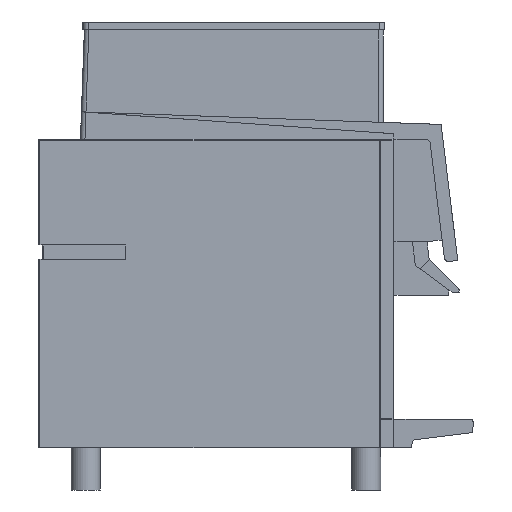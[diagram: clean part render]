
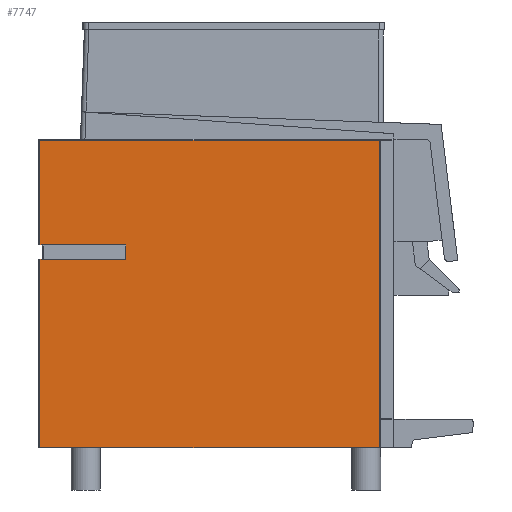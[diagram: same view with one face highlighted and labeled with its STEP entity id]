
A CAD part, left-side view. The second image highlights one B-rep face of the part: STEP entity #7747.
In plain terms, the highlighted planar face has unit normal (-1, 0, 0).
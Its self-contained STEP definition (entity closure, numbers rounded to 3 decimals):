
#790=ORIENTED_EDGE('',*,*,#2034,.F.);
#791=ORIENTED_EDGE('',*,*,#2358,.T.);
#792=ORIENTED_EDGE('',*,*,#2359,.T.);
#793=ORIENTED_EDGE('',*,*,#2360,.T.);
#794=ORIENTED_EDGE('',*,*,#2361,.F.);
#795=ORIENTED_EDGE('',*,*,#2362,.F.);
#796=ORIENTED_EDGE('',*,*,#2363,.F.);
#797=ORIENTED_EDGE('',*,*,#2364,.T.);
#798=ORIENTED_EDGE('',*,*,#2365,.T.);
#799=ORIENTED_EDGE('',*,*,#2366,.T.);
#2034=EDGE_CURVE('',#2856,#2857,#3379,.T.);
#2358=EDGE_CURVE('',#2856,#3103,#3629,.T.);
#2359=EDGE_CURVE('',#3103,#3104,#3630,.F.);
#2360=EDGE_CURVE('',#3104,#3105,#3631,.F.);
#2361=EDGE_CURVE('',#3106,#3105,#3632,.T.);
#2362=EDGE_CURVE('',#3107,#3106,#3633,.T.);
#2363=EDGE_CURVE('',#3108,#3107,#3634,.T.);
#2364=EDGE_CURVE('',#3108,#3109,#3635,.T.);
#2365=EDGE_CURVE('',#3109,#3110,#3636,.T.);
#2366=EDGE_CURVE('',#3110,#2857,#3637,.F.);
#2856=VERTEX_POINT('',#10261);
#2857=VERTEX_POINT('',#10263);
#3103=VERTEX_POINT('',#10894);
#3104=VERTEX_POINT('',#10896);
#3105=VERTEX_POINT('',#10898);
#3106=VERTEX_POINT('',#10900);
#3107=VERTEX_POINT('',#10902);
#3108=VERTEX_POINT('',#10904);
#3109=VERTEX_POINT('',#10906);
#3110=VERTEX_POINT('',#10908);
#3379=LINE('',#10262,#4033);
#3629=LINE('',#10893,#4283);
#3630=LINE('',#10895,#4284);
#3631=LINE('',#10897,#4285);
#3632=LINE('',#10899,#4286);
#3633=LINE('',#10901,#4287);
#3634=LINE('',#10903,#4288);
#3635=LINE('',#10905,#4289);
#3636=LINE('',#10907,#4290);
#3637=LINE('',#10909,#4291);
#4033=VECTOR('',#8588,1000.);
#4283=VECTOR('',#9108,1000.);
#4284=VECTOR('',#9109,1000.);
#4285=VECTOR('',#9110,1000.);
#4286=VECTOR('',#9111,1000.);
#4287=VECTOR('',#9112,1000.);
#4288=VECTOR('',#9113,1000.);
#4289=VECTOR('',#9114,1000.);
#4290=VECTOR('',#9115,1000.);
#4291=VECTOR('',#9116,1000.);
#4696=EDGE_LOOP('',(#790,#791,#792,#793,#794,#795,#796,#797,#798,#799));
#5029=FACE_BOUND('',#4696,.T.);
#5340=PLANE('',#8149);
#7747=ADVANCED_FACE('',(#5029),#5340,.F.);
#8149=AXIS2_PLACEMENT_3D('',#10892,#9106,#9107);
#8588=DIRECTION('',(0.,1.,0.));
#9106=DIRECTION('',(1.,0.,0.));
#9107=DIRECTION('',(0.,1.,0.));
#9108=DIRECTION('',(0.,0.,1.));
#9109=DIRECTION('',(0.,-1.,0.));
#9110=DIRECTION('',(0.,0.,1.));
#9111=DIRECTION('',(0.,1.,0.));
#9112=DIRECTION('',(0.,1.,0.));
#9113=DIRECTION('',(0.,0.,1.));
#9114=DIRECTION('',(0.,1.,0.));
#9115=DIRECTION('',(0.,1.,0.));
#9116=DIRECTION('',(0.,0.,1.));
#10261=CARTESIAN_POINT('',(-440.,-470.,0.));
#10262=CARTESIAN_POINT('',(-440.,-490.,0.));
#10263=CARTESIAN_POINT('',(-440.,-1.2,0.));
#10892=CARTESIAN_POINT('',(-440.,0.,0.));
#10893=CARTESIAN_POINT('',(-440.,-470.,420.5));
#10894=CARTESIAN_POINT('',(-440.,-470.,424.8));
#10895=CARTESIAN_POINT('',(-440.,0.,424.8));
#10896=CARTESIAN_POINT('',(-440.,-1.2,424.8));
#10897=CARTESIAN_POINT('',(-440.,-1.2,0.));
#10898=CARTESIAN_POINT('',(-440.,-1.2,280.));
#10899=CARTESIAN_POINT('',(-440.,-5.,280.));
#10900=CARTESIAN_POINT('',(-440.,-5.133,280.));
#10901=CARTESIAN_POINT('',(-440.,-120.,280.));
#10902=CARTESIAN_POINT('',(-440.,-120.,280.));
#10903=CARTESIAN_POINT('',(-440.,-120.,260.));
#10904=CARTESIAN_POINT('',(-440.,-120.,260.));
#10905=CARTESIAN_POINT('',(-440.,-120.,260.));
#10906=CARTESIAN_POINT('',(-440.,-5.133,260.));
#10907=CARTESIAN_POINT('',(-440.,-5.,260.));
#10908=CARTESIAN_POINT('',(-440.,-1.2,260.));
#10909=CARTESIAN_POINT('',(-440.,-1.2,0.));
